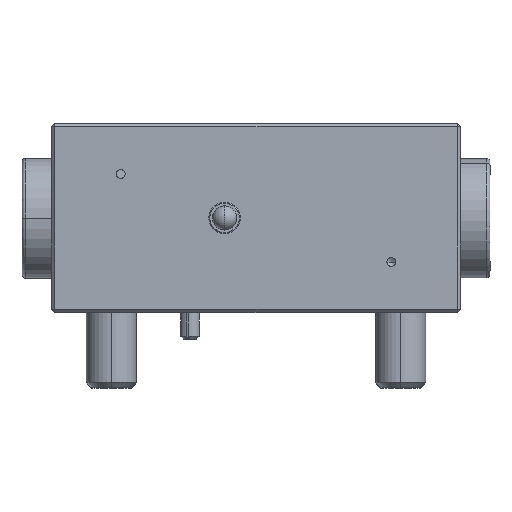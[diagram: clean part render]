
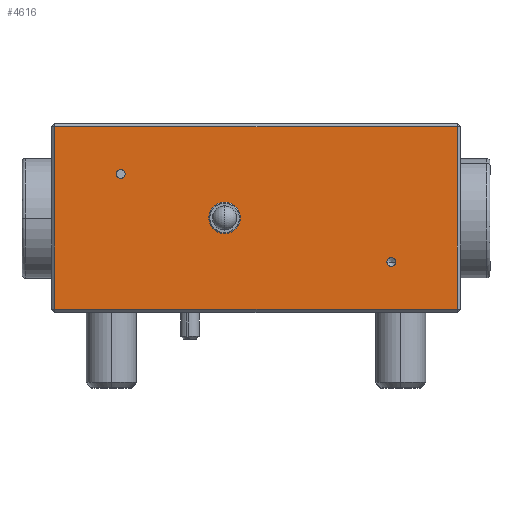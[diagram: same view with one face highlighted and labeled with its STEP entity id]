
A CAD part, top view. The second image highlights one B-rep face of the part: STEP entity #4616.
In plain terms, the highlighted planar face has unit normal (0, 0, 1).
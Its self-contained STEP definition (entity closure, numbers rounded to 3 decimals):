
#448 = DIRECTION ( 'NONE',  ( 1., 0., 0. ) ) ;
#509 = DIRECTION ( 'NONE',  ( 0., 0., 1. ) ) ;
#519 = CARTESIAN_POINT ( 'NONE',  ( -21.5, 22., 32.5 ) ) ;
#827 = VERTEX_POINT ( 'NONE', #4025 ) ;
#1297 = VECTOR ( 'NONE', #8678, 1000. ) ;
#1310 = CARTESIAN_POINT ( 'NONE',  ( 21.5, 8., 32.5 ) ) ;
#1311 = CIRCLE ( 'NONE', #7776, 0.7 ) ;
#1383 = ORIENTED_EDGE ( 'NONE', *, *, #2548, .T. ) ;
#1496 = DIRECTION ( 'NONE',  ( 0., 0., 1. ) ) ;
#1682 = EDGE_CURVE ( 'NONE', #6281, #3765, #13823, .T. ) ;
#1798 = EDGE_CURVE ( 'NONE', #3765, #14045, #13304, .T. ) ;
#1855 = EDGE_LOOP ( 'NONE', ( #2687, #11345, #11270, #1383 ) ) ;
#2045 = CARTESIAN_POINT ( 'NONE',  ( -22.2, 22., 32.5 ) ) ;
#2053 = EDGE_CURVE ( 'NONE', #14045, #12319, #9854, .T. ) ;
#2120 = CIRCLE ( 'NONE', #12993, 0.7 ) ;
#2121 = EDGE_LOOP ( 'NONE', ( #5182, #5156 ) ) ;
#2548 = EDGE_CURVE ( 'NONE', #12319, #6281, #12143, .T. ) ;
#2557 = CIRCLE ( 'NONE', #5921, 2.5 ) ;
#2566 = EDGE_CURVE ( 'NONE', #2741, #2607, #12300, .T. ) ;
#2607 = VERTEX_POINT ( 'NONE', #2045 ) ;
#2656 = EDGE_CURVE ( 'NONE', #827, #2974, #6828, .T. ) ;
#2687 = ORIENTED_EDGE ( 'NONE', *, *, #1682, .T. ) ;
#2741 = VERTEX_POINT ( 'NONE', #13985 ) ;
#2934 = EDGE_CURVE ( 'NONE', #13563, #10235, #2557, .T. ) ;
#2974 = VERTEX_POINT ( 'NONE', #6675 ) ;
#2989 = CARTESIAN_POINT ( 'NONE',  ( -7.5, 15., 32.5 ) ) ;
#3179 = CIRCLE ( 'NONE', #4487, 2.5 ) ;
#3765 = VERTEX_POINT ( 'NONE', #6751 ) ;
#4025 = CARTESIAN_POINT ( 'NONE',  ( 22.2, 8., 32.5 ) ) ;
#4097 = DIRECTION ( 'NONE',  ( 1., 0., 0. ) ) ;
#4346 = DIRECTION ( 'NONE',  ( 1., 0., 0. ) ) ;
#4487 = AXIS2_PLACEMENT_3D ( 'NONE', #7140, #7126, #7122 ) ;
#4616 = ADVANCED_FACE ( 'NONE', ( #13446, #13385, #13278, #13295 ), #5925, .F. ) ;
#4930 = DIRECTION ( 'NONE',  ( -1., 0., 0. ) ) ;
#5099 = DIRECTION ( 'NONE',  ( 0., 0., -1. ) ) ;
#5114 = CARTESIAN_POINT ( 'NONE',  ( -32.5, 30., 32.5 ) ) ;
#5132 = DIRECTION ( 'NONE',  ( 0., -1., 0. ) ) ;
#5156 = ORIENTED_EDGE ( 'NONE', *, *, #9220, .F. ) ;
#5181 = CARTESIAN_POINT ( 'NONE',  ( -32.5, 0.5, 32.5 ) ) ;
#5182 = ORIENTED_EDGE ( 'NONE', *, *, #2934, .F. ) ;
#5230 = ORIENTED_EDGE ( 'NONE', *, *, #6485, .F. ) ;
#5247 = ORIENTED_EDGE ( 'NONE', *, *, #2566, .F. ) ;
#5295 = EDGE_LOOP ( 'NONE', ( #5247, #12913 ) ) ;
#5337 = EDGE_LOOP ( 'NONE', ( #12881, #5230 ) ) ;
#5579 = CARTESIAN_POINT ( 'NONE',  ( -32., 30., 32.5 ) ) ;
#5921 = AXIS2_PLACEMENT_3D ( 'NONE', #6123, #6330, #6379 ) ;
#5925 = PLANE ( 'NONE',  #14633 ) ;
#6123 = CARTESIAN_POINT ( 'NONE',  ( -5., 15., 32.5 ) ) ;
#6281 = VERTEX_POINT ( 'NONE', #9119 ) ;
#6330 = DIRECTION ( 'NONE',  ( 0., 0., 1. ) ) ;
#6379 = DIRECTION ( 'NONE',  ( 1., 0., 0. ) ) ;
#6485 = EDGE_CURVE ( 'NONE', #2974, #827, #2120, .T. ) ;
#6535 = CARTESIAN_POINT ( 'NONE',  ( -32., 29.5, 32.5 ) ) ;
#6675 = CARTESIAN_POINT ( 'NONE',  ( 20.8, 8., 32.5 ) ) ;
#6751 = CARTESIAN_POINT ( 'NONE',  ( 32., 29.5, 32.5 ) ) ;
#6828 = CIRCLE ( 'NONE', #8940, 0.7 ) ;
#7122 = DIRECTION ( 'NONE',  ( 1., 0., 0. ) ) ;
#7126 = DIRECTION ( 'NONE',  ( 0., 0., 1. ) ) ;
#7140 = CARTESIAN_POINT ( 'NONE',  ( -5., 15., 32.5 ) ) ;
#7206 = EDGE_CURVE ( 'NONE', #2607, #2741, #1311, .T. ) ;
#7350 = DIRECTION ( 'NONE',  ( 1., 0., 0. ) ) ;
#7368 = CARTESIAN_POINT ( 'NONE',  ( 21.5, 8., 32.5 ) ) ;
#7533 = VECTOR ( 'NONE', #4097, 1000. ) ;
#7776 = AXIS2_PLACEMENT_3D ( 'NONE', #519, #509, #448 ) ;
#8563 = DIRECTION ( 'NONE',  ( 0., 0., 1. ) ) ;
#8660 = CARTESIAN_POINT ( 'NONE',  ( -32., 0.5, 32.5 ) ) ;
#8678 = DIRECTION ( 'NONE',  ( -1., 0., 0. ) ) ;
#8852 = CARTESIAN_POINT ( 'NONE',  ( -21.5, 22., 32.5 ) ) ;
#8940 = AXIS2_PLACEMENT_3D ( 'NONE', #1310, #1496, #4346 ) ;
#9119 = CARTESIAN_POINT ( 'NONE',  ( 32., 0.5, 32.5 ) ) ;
#9220 = EDGE_CURVE ( 'NONE', #10235, #13563, #3179, .T. ) ;
#9625 = CARTESIAN_POINT ( 'NONE',  ( 32., 30., 32.5 ) ) ;
#9680 = DIRECTION ( 'NONE',  ( 0., 1., 0. ) ) ;
#9854 = LINE ( 'NONE', #5579, #9868 ) ;
#9868 = VECTOR ( 'NONE', #5132, 1000. ) ;
#10235 = VERTEX_POINT ( 'NONE', #2989 ) ;
#11270 = ORIENTED_EDGE ( 'NONE', *, *, #2053, .T. ) ;
#11345 = ORIENTED_EDGE ( 'NONE', *, *, #1798, .T. ) ;
#11586 = AXIS2_PLACEMENT_3D ( 'NONE', #8852, #8563, #11913 ) ;
#11913 = DIRECTION ( 'NONE',  ( 1., 0., 0. ) ) ;
#12143 = LINE ( 'NONE', #5181, #7533 ) ;
#12300 = CIRCLE ( 'NONE', #11586, 0.7 ) ;
#12319 = VERTEX_POINT ( 'NONE', #8660 ) ;
#12684 = DIRECTION ( 'NONE',  ( 0., 0., 1. ) ) ;
#12803 = CARTESIAN_POINT ( 'NONE',  ( -32.5, 29.5, 32.5 ) ) ;
#12881 = ORIENTED_EDGE ( 'NONE', *, *, #2656, .F. ) ;
#12913 = ORIENTED_EDGE ( 'NONE', *, *, #7206, .F. ) ;
#12993 = AXIS2_PLACEMENT_3D ( 'NONE', #7368, #12684, #7350 ) ;
#13278 = FACE_BOUND ( 'NONE', #5337, .T. ) ;
#13295 = FACE_BOUND ( 'NONE', #2121, .T. ) ;
#13304 = LINE ( 'NONE', #12803, #1297 ) ;
#13385 = FACE_BOUND ( 'NONE', #5295, .T. ) ;
#13446 = FACE_OUTER_BOUND ( 'NONE', #1855, .T. ) ;
#13563 = VERTEX_POINT ( 'NONE', #14418 ) ;
#13823 = LINE ( 'NONE', #9625, #14356 ) ;
#13985 = CARTESIAN_POINT ( 'NONE',  ( -20.8, 22., 32.5 ) ) ;
#14045 = VERTEX_POINT ( 'NONE', #6535 ) ;
#14356 = VECTOR ( 'NONE', #9680, 1000. ) ;
#14418 = CARTESIAN_POINT ( 'NONE',  ( -2.5, 15., 32.5 ) ) ;
#14633 = AXIS2_PLACEMENT_3D ( 'NONE', #5114, #5099, #4930 ) ;
